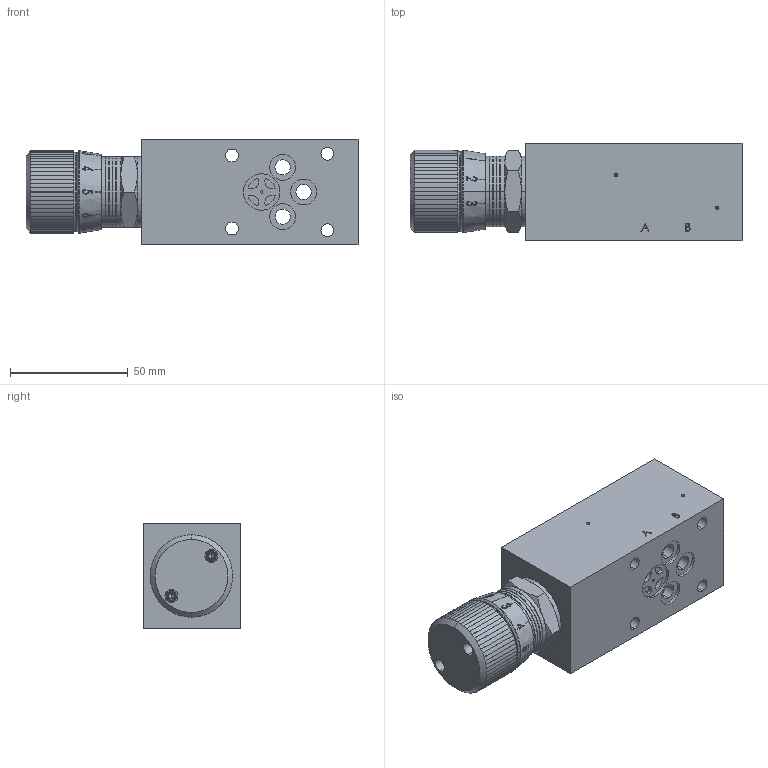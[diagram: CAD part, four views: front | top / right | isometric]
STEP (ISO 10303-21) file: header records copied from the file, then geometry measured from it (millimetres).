
FILE_DESCRIPTION (( 'STEP AP214' ), '1' );
FILE_NAME ('AURDA6.STEP', '2017-04-12T14:10:06', ( '' ), ( '' ), 'SwSTEP 2.0', 'SolidWorks 2016', '' );
FILE_SCHEMA (( 'AUTOMOTIVE_DESIGN' ));
Length unit declared in the file: millimetre
Products named in the file (1): AURDA6
Bounding box: 141 x 41.5 x 45 mm (x, y, z)
Volume: 204450.6 mm3; surface area: 31500.3 mm2
Topology: 1 solids, 1 shells, 946 faces, 2620 edges, 1711 vertices
Faces by surface type: plane 587, cylinder 149, bspline 127, cone 79, torus 4
Entity records: 55238 total; most frequent: CARTESIAN_POINT 22690, ORIENTED_EDGE 5224, DIRECTION 3765, EDGE_CURVE 2612, VERTEX_POINT 1711, AXIS2_PLACEMENT_3D 1381, B_SPLINE_CURVE_WITH_KNOTS 1026, EDGE_LOOP 1007
